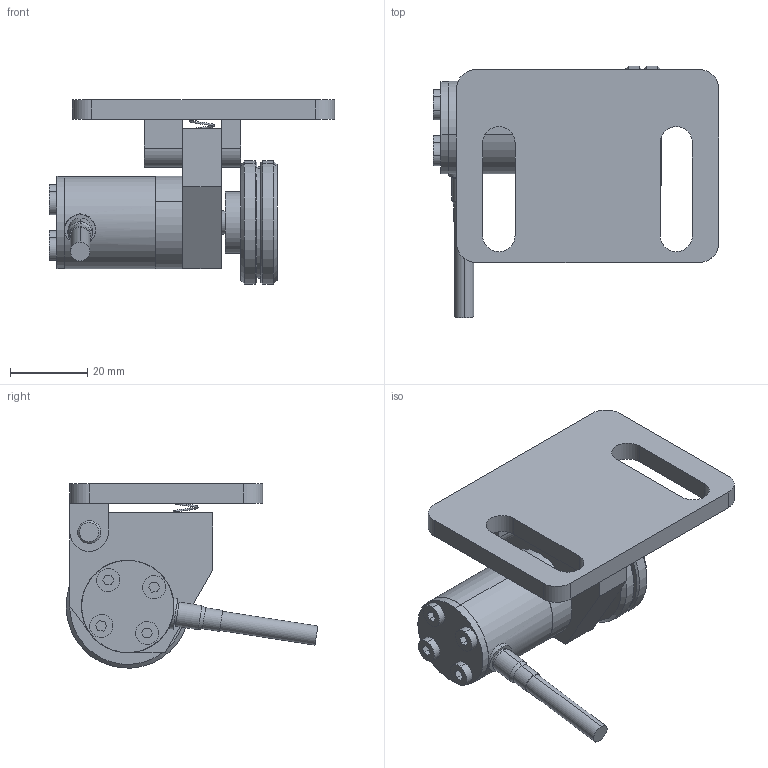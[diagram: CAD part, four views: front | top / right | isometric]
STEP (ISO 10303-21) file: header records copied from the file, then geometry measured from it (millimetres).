
FILE_DESCRIPTION (( 'STEP AP203' ), '1' );
FILE_NAME ('05.2400.0040.1000.5049.STEP', '2013-04-12T14:15:11', ( 'Hodot' ), ( '' ), 'SwSTEP 2.0', 'SolidWorks 2012', '' );
FILE_SCHEMA (( 'CONFIG_CONTROL_DESIGN' ));
Length unit declared in the file: millimetre
Products named in the file (1): 05.2400.0040.1000.5049
Bounding box: 74 x 65.28 x 47.77 mm (x, y, z)
Volume: 50740.2 mm3; surface area: 22851.1 mm2
Topology: 10 solids, 10 shells, 187 faces, 423 edges, 268 vertices
Faces by surface type: plane 82, cylinder 73, cone 30, bspline 2
Entity records: 6976 total; most frequent: CARTESIAN_POINT 2586, DIRECTION 943, ORIENTED_EDGE 834, EDGE_CURVE 417, AXIS2_PLACEMENT_3D 353, VERTEX_POINT 268, LINE 237, VECTOR 237
